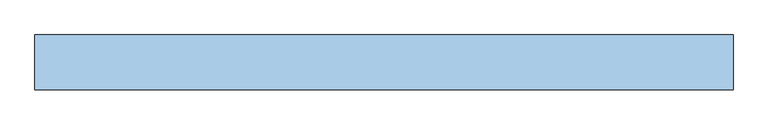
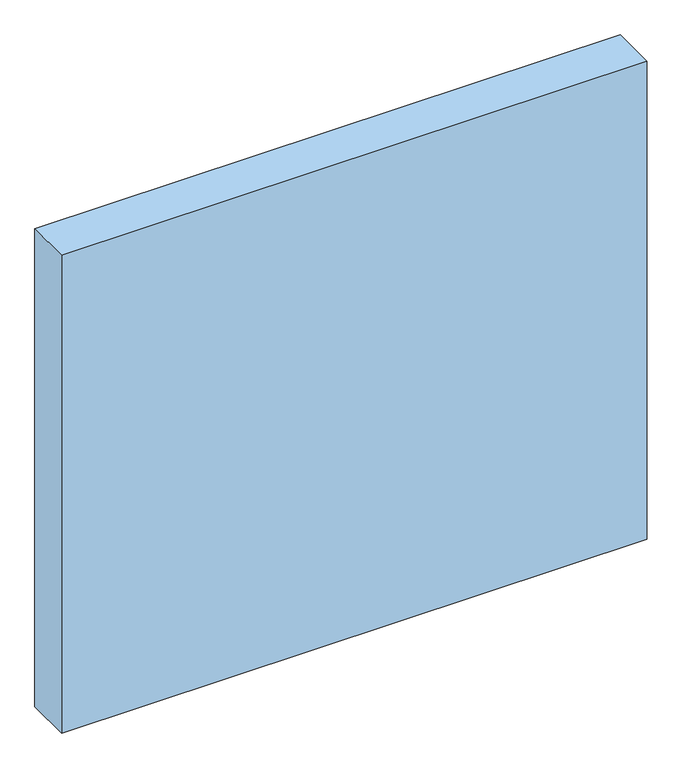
"""IFC4 building model written with IfcOpenShell, lengths in millimetres: window geometry, Dr_Проем-Четверти_об модель : ОК."""

from ifc_helpers import new_model, si_unit, frame, origin, place, context, project, spatial, polyline, outline, extrude, source, transform, mapped, element, save


def window_d385fdc8(model_context):
    return source(origin(), model_context, "Body", "SweptSolid", [
        extrude(outline(polyline([(1405.0, 100.0), (1405.0, -100.0), (-1135.0, -100.0), (-1135.0, 100.0), (1405.0, 100.0)])), frame((0.0, 0.0, -70.0), z_axis=(0.0, 0.0, 1.0), x_axis=(1.0, 0.0, 0.0)), (0.0, 0.0, 1.0), 2190.0),
    ])


if __name__ == "__main__":
    model = new_model("IFC4")
    model_context = context("Model", 3, world=origin())
    ifc_project = project(units=[si_unit("LENGTHUNIT", "METRE", prefix="MILLI")], contexts=[model_context])
    site = spatial("IfcSite", under=ifc_project)
    building = spatial("IfcBuilding", under=site)
    placement = place(None, origin())
    window_shape = window_d385fdc8(model_context)
    element("IfcWindow", 1, ObjectType="Dr_Проем-Четверти_об модель : ОК", at=placement, inside=building, context=model_context, shape_type="MappedRepresentation", body=[
        mapped(window_shape, transform((0.0, 0.0, 0.0), x_axis=(1.0, 0.0, 0.0), y_axis=(0.0, 1.0, 0.0), z_axis=(0.0, 0.0, 1.0))),
    ])
    save(model, "model.ifc")
